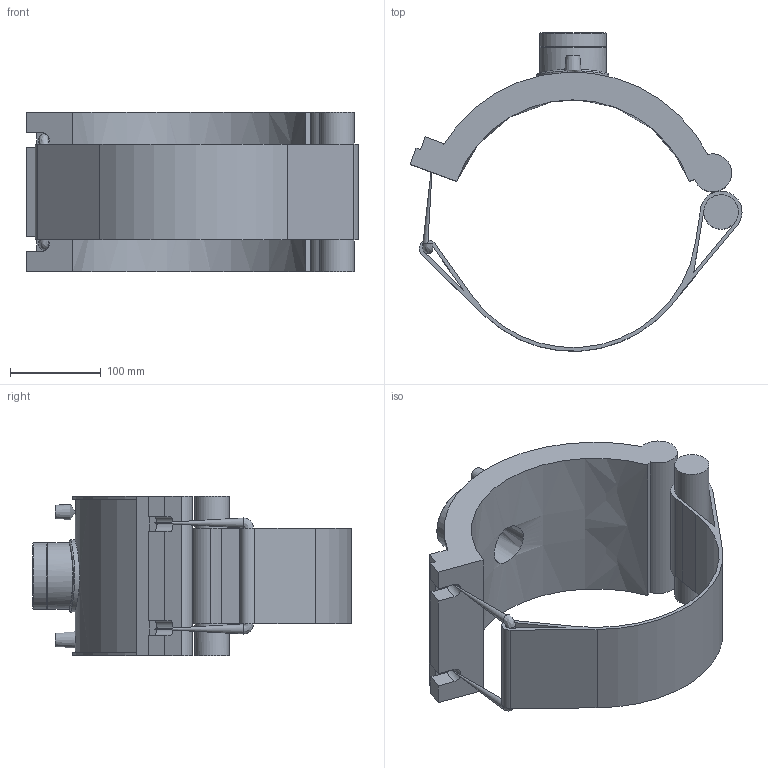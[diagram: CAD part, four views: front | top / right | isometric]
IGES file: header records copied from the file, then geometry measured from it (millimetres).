
Global section: file name: 5938B00310055.ipt; native system: Autodesk Inventor 2019; preprocessor: unknown; author: KIM; date: 20210830.101107; units: inch
Bounding box: 365.45 x 350.59 x 176.02 mm (x, y, z)
Volume: 2672306.5 mm3; surface area: 380076.1 mm2
Topology: 2 solids, 3 shells, 78 faces, 192 edges, 126 vertices
Faces by surface type: plane 42, cylinder 19, revolution 11, cone 5, bspline 1
Full cylindrical faces by diameter (mm): 4 x2, 10.908 x2, 37.968 x1, 72.653 x1, 73.653 x2, 79.318 x1
